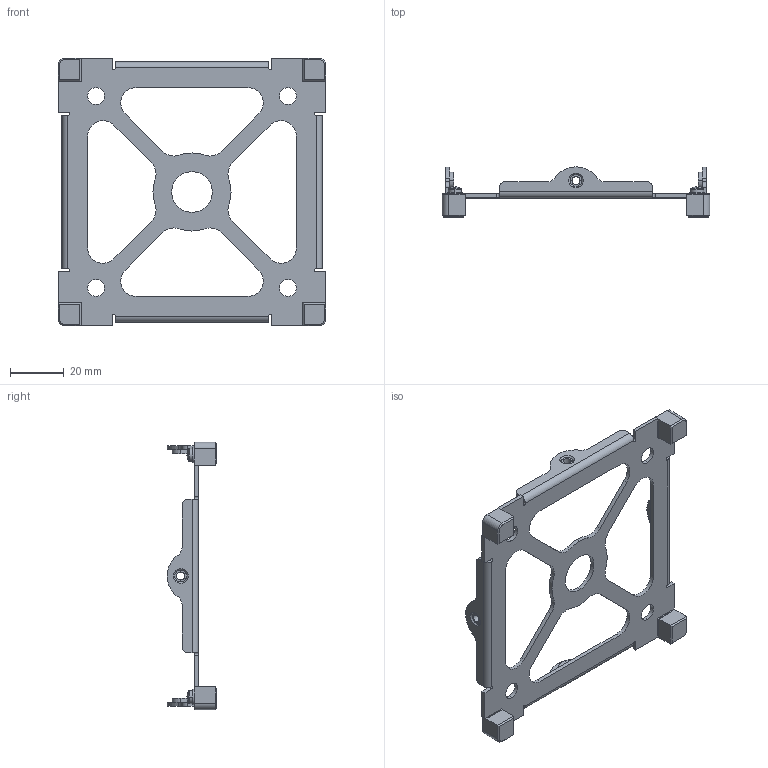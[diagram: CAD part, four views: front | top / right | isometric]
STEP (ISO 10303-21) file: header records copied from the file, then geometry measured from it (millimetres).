
FILE_DESCRIPTION (( 'STEP AP214' ), '1' );
FILE_NAME ('710-00296-D0 Cover Plate, Skeleton.STEP', '2017-11-13T20:25:25', ( '' ), ( '' ), 'SwSTEP 2.0', 'SolidWorks 2014', '' );
FILE_SCHEMA (( 'AUTOMOTIVE_DESIGN' ));
Length unit declared in the file: inch
Products named in the file (2): 710-00296-D0 Cover Plate, Skeleton
Bounding box: 100 x 18.58 x 100 mm (x, y, z)
Volume: 11830.5 mm3; surface area: 16139.4 mm2
Topology: 1 solids, 37 shells, 708 faces, 1578 edges, 908 vertices
Faces by surface type: plane 270, cone 212, cylinder 210, torus 8, sphere 8
Entity records: 20413 total; most frequent: DIRECTION 3654, CARTESIAN_POINT 3196, ORIENTED_EDGE 3156, EDGE_CURVE 1578, AXIS2_PLACEMENT_3D 1366, VECTOR 922, LINE 922, VERTEX_POINT 908
